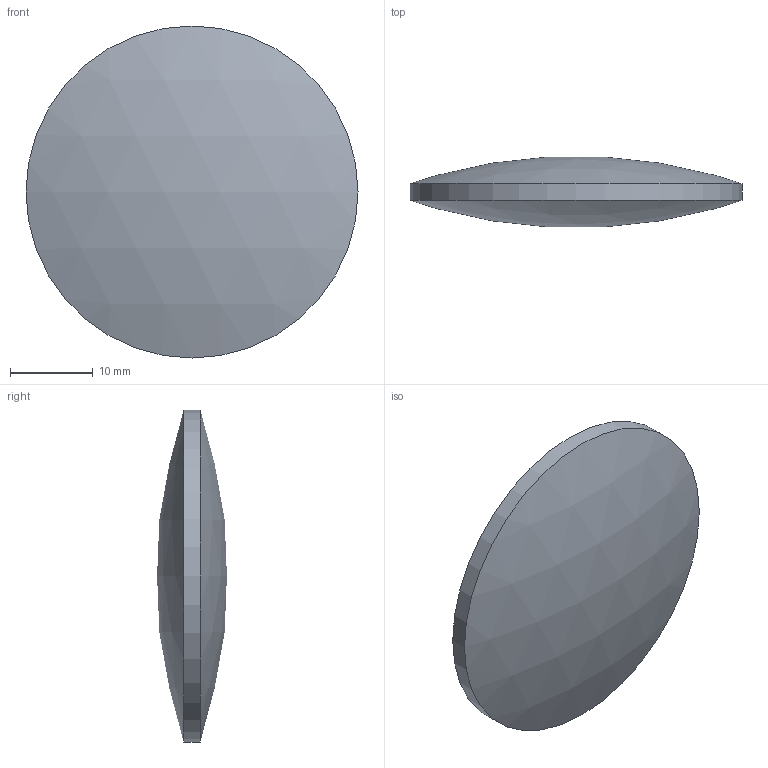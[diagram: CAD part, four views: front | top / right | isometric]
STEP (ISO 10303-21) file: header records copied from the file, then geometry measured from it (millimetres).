
FILE_DESCRIPTION((''),'2;1');
FILE_NAME('T:\Public\7_3次元データ\1図面ﾃﾞｰﾀ\7_素子\レンズ\5_球面両凸レンズ-BK7(SLB-B-P)\SLB-B-P\φ40\SLB-40B-60P\SLB-40B-60P.stp','2009-05-14T14:38:42',('okegawa'),(''),'Autodesk Inventor 2008','Autodesk Inventor 2008','');
FILE_SCHEMA(('AUTOMOTIVE_DESIGN { 1 0 10303 214 1 1 1 1 }'));
Length unit declared in the file: millimetre
Products named in the file (1): SLB-40B-60P
Bounding box: 40 x 8.42 x 40 mm (x, y, z)
Volume: 6699.3 mm3; surface area: 2833.3 mm2
Topology: 1 solids, 1 shells, 3 faces, 3 edges, 2 vertices
Faces by surface type: sphere 2, cylinder 1
Full cylindrical faces by diameter (mm): 40 x1
Entity records: 80 total; most frequent: DIRECTION 12, CARTESIAN_POINT 8, AXIS2_PLACEMENT_3D 6, ORIENTED_EDGE 4, EDGE_LOOP 4, FACE_OUTER_BOUND 3, ADVANCED_FACE 3, DIMENSIONAL_EXPONENTS 2
